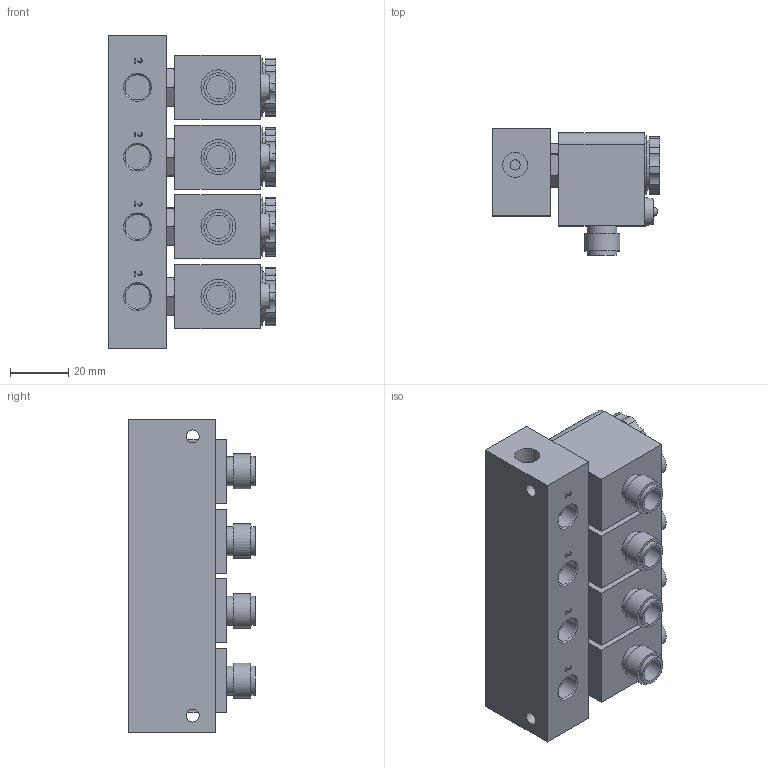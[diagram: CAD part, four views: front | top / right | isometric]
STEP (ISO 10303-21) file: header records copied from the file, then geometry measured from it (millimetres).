
FILE_DESCRIPTION (( 'STEP AP214' ), '1' );
FILE_NAME ('MSO-18-310_4-HN-O12_Airtec.step', '2018-12-14T07:41:34', ( '' ), ( '' ), 'SwSTEP 2.0', 'SolidWorks 2010', '' );
FILE_SCHEMA (( 'AUTOMOTIVE_DESIGN' ));
Length unit declared in the file: millimetre
Products named in the file (3): Volumenkörper4; Volumenkörper1; MSO-18-310_4-HN-O12_Airtec
Assembly tree (5 placements, depth 2):
  MSO-18-310_4-HN-O12_Airtec
    Volumenkörper1  x4
    Volumenkörper4
Bounding box: 57.45 x 43.5 x 108 mm (x, y, z)
Volume: 154571.4 mm3; surface area: 46177.7 mm2
Topology: 5 solids, 9 shells, 608 faces, 1442 edges, 938 vertices
Faces by surface type: plane 236, cylinder 196, bspline 104, cone 56, torus 12, sphere 4
Full cylindrical faces by diameter (mm): 3.5 x2, 4.134 x4, 4.5 x2, 5 x4, 6.647 x4, 7.4 x2, 8 x8, 8.1 x4, 8.2 x4, 8.566 x6, 9.04 x8, 10 x8, 10.5 x4, 12 x4, 13.2 x4, 17.041 x4, 20.1 x4
Entity records: 20337 total; most frequent: CARTESIAN_POINT 4874, ORIENTED_EDGE 2376, DIRECTION 2229, EDGE_CURVE 1188, AXIS2_PLACEMENT_3D 861, VERTEX_POINT 833, EDGE_LOOP 743, FACE_OUTER_BOUND 629
